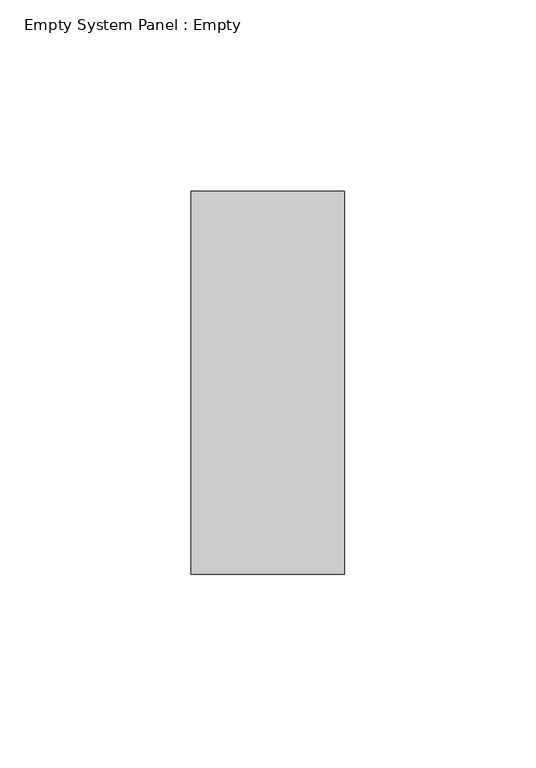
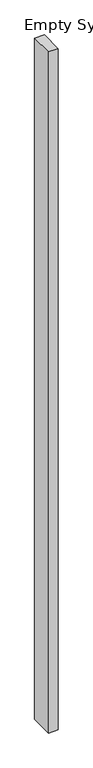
"""IFC4 building model written with IfcOpenShell, lengths in millimetres: plate geometry, Empty System Panel : Empty."""

from ifc_helpers import new_model, si_unit, origin, origin_with_axes, place, context, project, spatial, polyline, outline, extrude, source, transform, mapped, element, save


def empty_system_panel_empty_d822e783(model_context):
    return source(origin(), model_context, "Body", "SweptSolid", [
        extrude(outline(polyline([(20.0000002, 50.0), (-20.0000002, 50.0), (-20.0000002, 150.0), (20.0000002, 150.0), (20.0000002, 50.0)])), origin_with_axes(), (0.0, 0.0, 1.0), 3000.0),
    ])


if __name__ == "__main__":
    model = new_model("IFC4")
    model_context = context("Model", 3, world=origin())
    ifc_project = project(units=[si_unit("LENGTHUNIT", "METRE", prefix="MILLI")], contexts=[model_context])
    site = spatial("IfcSite", under=ifc_project)
    building = spatial("IfcBuilding", under=site)
    placement = place(None, origin())
    empty_system_panel_empty_shape = empty_system_panel_empty_d822e783(model_context)
    element("IfcPlate", 1, ObjectType="Empty System Panel : Empty", at=placement, inside=building, context=model_context, shape_type="MappedRepresentation", body=[
        mapped(empty_system_panel_empty_shape, transform((0.0, 0.0, 0.0), x_axis=(1.0, 0.0, 0.0), y_axis=(0.0, 1.0, 0.0), z_axis=(0.0, 0.0, 1.0))),
    ])
    save(model, "model.ifc")
